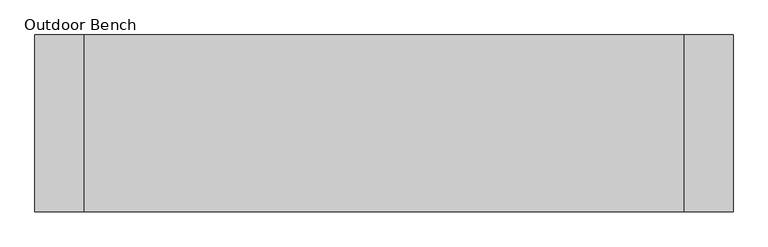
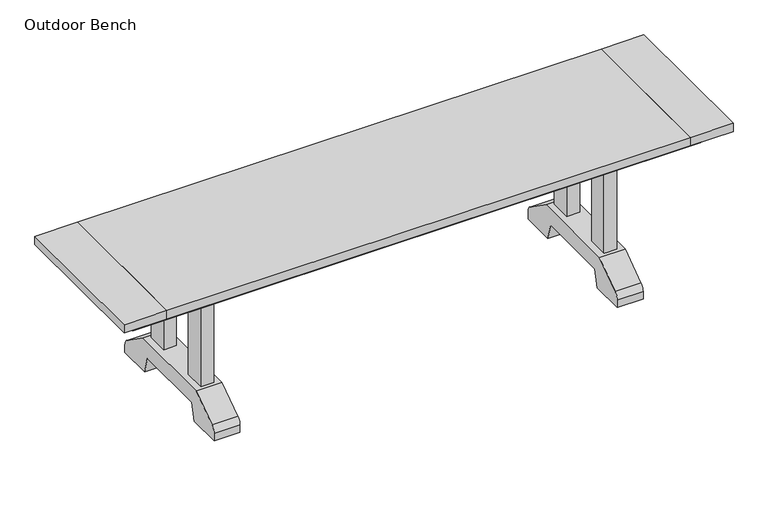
"""IFC4 building model written with IfcOpenShell, lengths in millimetres: furniture geometry."""

from ifc_helpers import new_model, si_unit, point, frame, frame_2d, origin, place, context, project, spatial, polyline, circle_curve, trimmed, segment, composite_curve, outline, extrude, source, transform, mapped, element, save


def outdoor_bench_d23ae258(model_context):
    return source(origin(), model_context, "Body", "SweptSolid", [
        extrude(outline(polyline([(615.95, -63.5), (615.95, -127.0), (577.85, -127.0), (577.85, -63.5), (615.95, -63.5)])), frame((0.0, 0.0, 101.6), z_axis=(0.0, 0.0, 1.0), x_axis=(1.0, 0.0, 0.0)), (0.0, 0.0, 1.0), 330.2),
        extrude(outline(polyline([(615.95, 127.0), (615.95, 63.5), (577.85, 63.5), (577.85, 127.0), (615.95, 127.0)])), frame((0.0, 0.0, 101.6), z_axis=(0.0, 0.0, 1.0), x_axis=(1.0, 0.0, 0.0)), (0.0, 0.0, 1.0), 330.2),
        extrude(outline(composite_curve([segment(polyline([(-228.6, 0.0), (-228.6, 23.684809)]), True, "CONTINUOUS"), segment(trimmed(circle_curve(frame_2d((-202.4900812, 23.684809)), 26.1099188), [point((-228.6, 23.684809))], [point((-218.2264876, 44.5197166))], False, "CARTESIAN"), True, "CONTINUOUS"), segment(polyline([(-218.2264876, 44.5197166), (-136.7073947, 101.6), (136.7073947, 101.6), (218.2264876, 44.5197166)]), True, "CONTINUOUS"), segment(trimmed(circle_curve(frame_2d((202.4900812, 23.684809)), 26.1099188), [point((218.2264876, 44.5197166))], [point((228.6, 23.684809))], False, "CARTESIAN"), True, "CONTINUOUS"), segment(polyline([(228.6, 23.684809), (228.6, 0.0), (127.0, 0.0), (113.388181, 50.8), (-113.388181, 50.8), (-127.0, 0.0), (-228.6, 0.0)]), True, "CONTINUOUS")], self_intersect=False)), frame((558.8, 0.0, 0.0), z_axis=(1.0, 0.0, 0.0), x_axis=(0.0, 1.0, 0.0)), (0.0, 0.0, 1.0), 76.2),
        extrude(outline(polyline([(-577.85, -63.5), (-577.85, -127.0), (-615.95, -127.0), (-615.95, -63.5), (-577.85, -63.5)])), frame((0.0, 0.0, 101.6), z_axis=(0.0, 0.0, 1.0), x_axis=(1.0, 0.0, 0.0)), (0.0, 0.0, 1.0), 330.2),
        extrude(outline(polyline([(-577.85, 127.0), (-577.85, 63.5), (-615.95, 63.5), (-615.95, 127.0), (-577.85, 127.0)])), frame((0.0, 0.0, 101.6), z_axis=(0.0, 0.0, 1.0), x_axis=(1.0, 0.0, 0.0)), (0.0, 0.0, 1.0), 330.2),
        extrude(outline(composite_curve([segment(polyline([(-228.6, 0.0), (-228.6, 23.684809)]), True, "CONTINUOUS"), segment(trimmed(circle_curve(frame_2d((-202.4900812, 23.684809)), 26.1099188), [point((-228.6, 23.684809))], [point((-218.2264876, 44.5197166))], False, "CARTESIAN"), True, "CONTINUOUS"), segment(polyline([(-218.2264876, 44.5197166), (-136.7073947, 101.6), (136.7073947, 101.6), (218.2264876, 44.5197166)]), True, "CONTINUOUS"), segment(trimmed(circle_curve(frame_2d((202.4900812, 23.684809)), 26.1099188), [point((218.2264876, 44.5197166))], [point((228.6, 23.684809))], False, "CARTESIAN"), True, "CONTINUOUS"), segment(polyline([(228.6, 23.684809), (228.6, 0.0), (127.0, 0.0), (113.388181, 50.8), (-113.388181, 50.8), (-127.0, 0.0), (-228.6, 0.0)]), True, "CONTINUOUS")], self_intersect=False)), frame((-635.0, 0.0, 0.0), z_axis=(1.0, 0.0, 0.0), x_axis=(0.0, 1.0, 0.0)), (0.0, 0.0, 1.0), 76.2),
        extrude(outline(polyline([(841.375, 168.275), (841.375, -168.275), (-841.375, -168.275), (-841.375, 168.275), (841.375, 168.275)]), holes=[polyline([(825.5, 152.4), (-825.5, 152.4), (-825.5, -152.4), (825.5, -152.4), (825.5, 152.4)])]), frame((0.0, 0.0, 381.0), z_axis=(0.0, 0.0, 1.0), x_axis=(1.0, 0.0, 0.0)), (0.0, 0.0, 1.0), 50.8),
        extrude(outline(polyline([(774.7, 228.6), (774.7, -228.6), (-774.7, -228.6), (-774.7, 228.6), (774.7, 228.6)])), frame((0.0, 0.0, 431.8), z_axis=(0.0, 0.0, 1.0), x_axis=(1.0, 0.0, 0.0)), (0.0, 0.0, 1.0), 25.4),
        extrude(outline(polyline([(-774.7, 228.6), (-774.7, -228.6), (-901.7, -228.6), (-901.7, 228.6), (-774.7, 228.6)])), frame((0.0, 0.0, 431.8), z_axis=(0.0, 0.0, 1.0), x_axis=(1.0, 0.0, 0.0)), (0.0, 0.0, 1.0), 25.4),
        extrude(outline(polyline([(901.7, 228.6), (901.7, -228.6), (774.7, -228.6), (774.7, 228.6), (901.7, 228.6)])), frame((0.0, 0.0, 431.8), z_axis=(0.0, 0.0, 1.0), x_axis=(1.0, 0.0, 0.0)), (0.0, 0.0, 1.0), 25.4),
    ])


if __name__ == "__main__":
    model = new_model("IFC4")
    model_context = context("Model", 3, world=origin())
    ifc_project = project(units=[si_unit("LENGTHUNIT", "METRE", prefix="MILLI")], contexts=[model_context])
    site = spatial("IfcSite", under=ifc_project)
    building = spatial("IfcBuilding", under=site)
    placement = place(None, origin())
    outdoor_bench_shape = outdoor_bench_d23ae258(model_context)
    element("IfcFurniture", 1, ObjectType="Outdoor Bench : 5'-11\"L x 1'-6\"W", at=placement, inside=building, context=model_context, shape_type="MappedRepresentation", body=[
        mapped(outdoor_bench_shape, transform((0.0, 0.0, 0.0), x_axis=(1.0, 0.0, 0.0), y_axis=(0.0, 1.0, 0.0), z_axis=(0.0, 0.0, 1.0))),
    ])
    save(model, "model.ifc")
